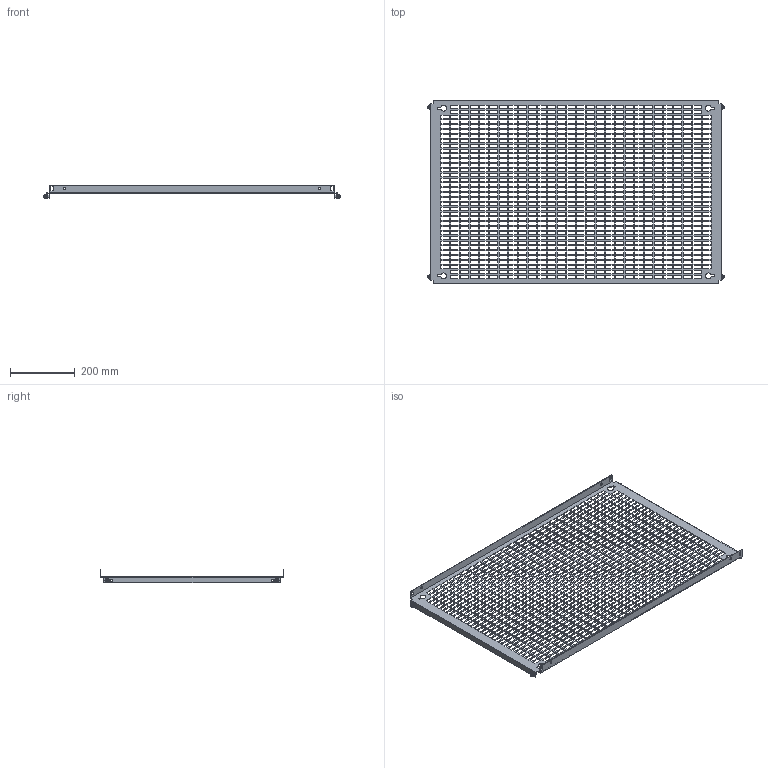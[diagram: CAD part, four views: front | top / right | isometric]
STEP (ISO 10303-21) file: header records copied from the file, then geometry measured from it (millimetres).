
FILE_DESCRIPTION(('Open CASCADE Model'),'2;1');
FILE_NAME('Open CASCADE Shape Model','2025-02-19T16:51:29',('Author'),( 'Open CASCADE'),'Open CASCADE STEP processor 7.8','Open CASCADE 7.8' ,'Unknown');
FILE_SCHEMA(('AUTOMOTIVE_DESIGN { 1 0 10303 214 1 1 1 1 }'));
Length unit declared in the file: millimetre
Products named in the file (4): Compound1; Solid1; Solid2; Solid3
Assembly tree (9 placements, depth 2):
  Compound1
    Solid1
    Solid2  x4
    Solid3  x4
Bounding box: 920 x 569 x 43 mm (x, y, z)
Volume: 575054.2 mm3; surface area: 729897.8 mm2
Topology: 9 solids, 9 shells, 4290 faces, 12698 edges, 8430 vertices
Faces by surface type: plane 4134, cone 68, bspline 48, cylinder 28, torus 12
Full cylindrical faces by diameter (mm): 5 x4, 6 x8, 7 x12
Entity records: 140704 total; most frequent: CARTESIAN_POINT 25327, ORIENTED_EDGE 24718, DIRECTION 20608, EDGE_CURVE 12359, LINE 12208, VECTOR 12208, VERTEX_POINT 8232, FACE_BOUND 6177
